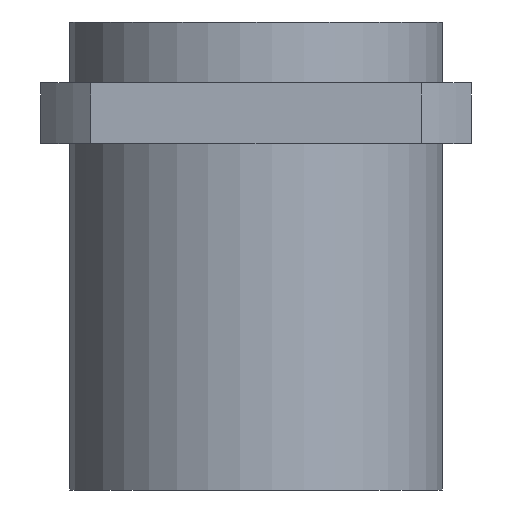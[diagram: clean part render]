
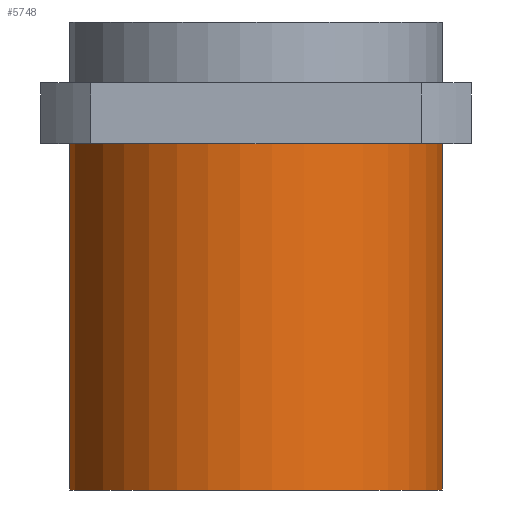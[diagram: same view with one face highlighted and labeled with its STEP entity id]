
A CAD part, front view. The second image highlights one B-rep face of the part: STEP entity #5748.
In plain terms, the highlighted cylindrical face has radius 40 mm (diameter 80 mm), a full revolution.
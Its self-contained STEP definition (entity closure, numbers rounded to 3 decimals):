
#85=CYLINDRICAL_SURFACE('',#6126,40.);
#102=CIRCLE('',#6093,40.);
#126=CIRCLE('',#6127,40.);
#548=ORIENTED_EDGE('',*,*,#2198,.T.);
#549=ORIENTED_EDGE('',*,*,#2030,.T.);
#2030=EDGE_CURVE('',#2859,#2859,#102,.F.);
#2198=EDGE_CURVE('',#3019,#3019,#126,.T.);
#2859=VERTEX_POINT('',#8331);
#3019=VERTEX_POINT('',#9142);
#4711=EDGE_LOOP('',(#548));
#4712=EDGE_LOOP('',(#549));
#5126=FACE_BOUND('',#4711,.T.);
#5127=FACE_BOUND('',#4712,.T.);
#5748=ADVANCED_FACE('',(#5126,#5127),#85,.T.);
#6093=AXIS2_PLACEMENT_3D('',#8330,#6501,#6502);
#6126=AXIS2_PLACEMENT_3D('',#9140,#6685,#6686);
#6127=AXIS2_PLACEMENT_3D('',#9141,#6687,#6688);
#6501=DIRECTION('',(0.,0.,1.));
#6502=DIRECTION('',(0.707,-0.707,0.));
#6685=DIRECTION('',(0.,0.,1.));
#6686=DIRECTION('',(0.707,-0.707,0.));
#6687=DIRECTION('',(0.,0.,1.));
#6688=DIRECTION('',(0.707,-0.707,0.));
#8330=CARTESIAN_POINT('',(0.,0.,-13.));
#8331=CARTESIAN_POINT('',(28.284,-28.284,-13.));
#9140=CARTESIAN_POINT('',(0.,0.,-87.));
#9141=CARTESIAN_POINT('',(0.,0.,-87.));
#9142=CARTESIAN_POINT('',(28.284,-28.284,-87.));
